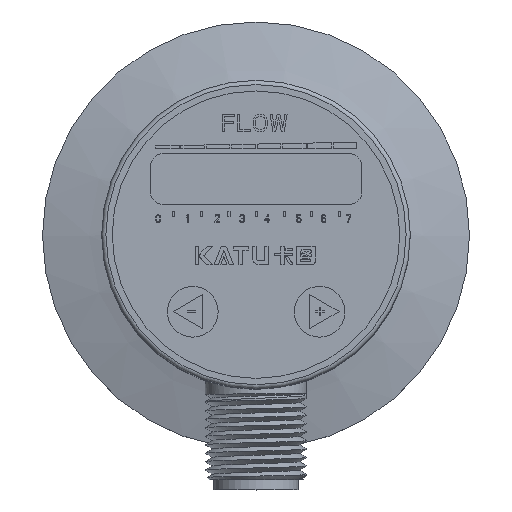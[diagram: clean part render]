
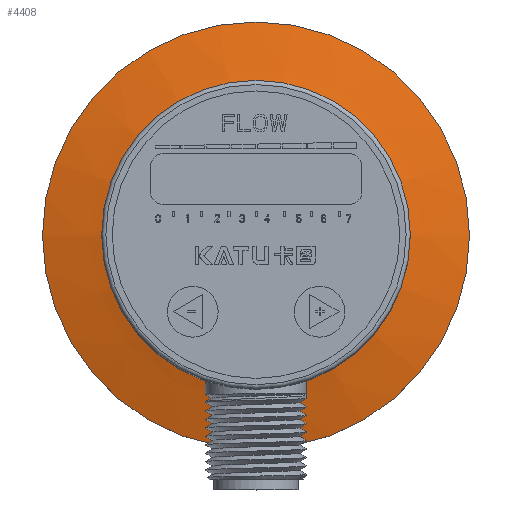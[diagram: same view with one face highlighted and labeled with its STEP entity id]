
A CAD part, top view. The second image highlights one B-rep face of the part: STEP entity #4408.
In plain terms, the highlighted conical face has half-angle 75 degrees and reference radius 13.552 mm.
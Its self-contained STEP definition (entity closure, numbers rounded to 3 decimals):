
#3158=CONICAL_SURFACE('',#12379,13.552,75.);
#4408=ADVANCED_FACE('',(#5150,#5151),#3158,.T.);
#5150=FACE_BOUND('',#5358,.T.);
#5151=FACE_BOUND('',#5359,.T.);
#5358=EDGE_LOOP('',(#6153));
#5359=EDGE_LOOP('',(#6154));
#6153=ORIENTED_EDGE('',*,*,#10579,.T.);
#6154=ORIENTED_EDGE('',*,*,#10578,.T.);
#9445=VERTEX_POINT('',#16281);
#9446=VERTEX_POINT('',#16284);
#10578=EDGE_CURVE('',#9445,#9445,#12236,.T.);
#10579=EDGE_CURVE('',#9446,#9446,#12237,.T.);
#12236=CIRCLE('',#12376,25.25);
#12237=CIRCLE('',#12378,14.273);
#12376=AXIS2_PLACEMENT_3D('',#16280,#13198,#13199);
#12378=AXIS2_PLACEMENT_3D('',#16283,#13202,#13203);
#12379=AXIS2_PLACEMENT_3D('',#16285,#13204,#13205);
#13198=DIRECTION('',(0.,0.,1.));
#13199=DIRECTION('',(-1.,0.,0.));
#13202=DIRECTION('',(0.,0.,-1.));
#13203=DIRECTION('',(-1.,0.,0.));
#13204=DIRECTION('',(0.,0.,-1.));
#13205=DIRECTION('',(0.,-1.,0.));
#16280=CARTESIAN_POINT('',(-145.,0.,46.059));
#16281=CARTESIAN_POINT('',(-170.25,0.,46.059));
#16283=CARTESIAN_POINT('',(-145.,0.,49.));
#16284=CARTESIAN_POINT('',(-159.273,0.,49.));
#16285=CARTESIAN_POINT('',(-145.,0.,49.193));
